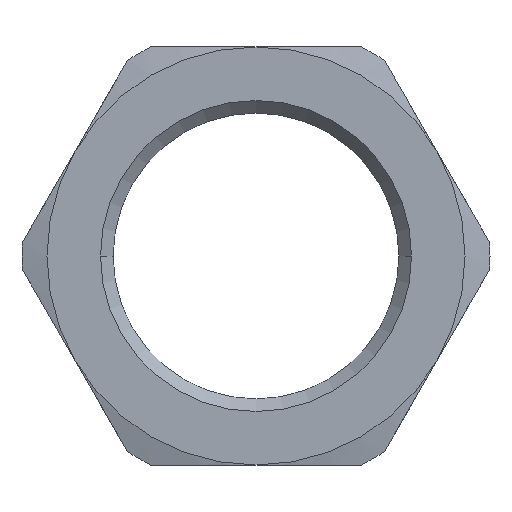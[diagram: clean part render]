
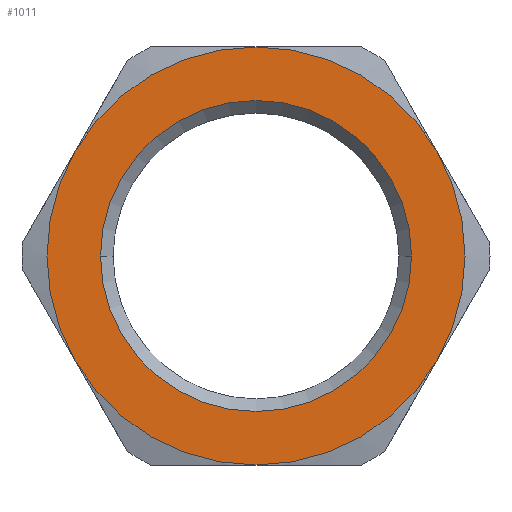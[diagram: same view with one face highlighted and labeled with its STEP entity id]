
A CAD part, left-side view. The second image highlights one B-rep face of the part: STEP entity #1011.
In plain terms, the highlighted planar face has unit normal (-1, 0, 0) as drawn and (0, 0, 1) by its records, which use the part's own axes.
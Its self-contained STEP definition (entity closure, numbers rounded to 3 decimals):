
#299=CARTESIAN_POINT('',(0.,15.25,4.));
#300=VERTEX_POINT('',#299);
#314=CARTESIAN_POINT('',(0.,-15.25,4.0));
#315=VERTEX_POINT('',#314);
#322=CARTESIAN_POINT('',(0.,0.,4.0));
#323=DIRECTION('',(0.0,0.0,-1.0));
#324=DIRECTION('',(0.0,1.0,0.0));
#325=AXIS2_PLACEMENT_3D('',#322,#323,#324);
#326=CIRCLE('',#325,15.25);
#327=EDGE_CURVE('',#300,#315,#326,.T.);
#338=CARTESIAN_POINT('',(0.,0.,4.0));
#339=DIRECTION('',(0.0,0.0,-1.0));
#340=DIRECTION('',(0.0,1.0,0.0));
#341=AXIS2_PLACEMENT_3D('',#338,#339,#340);
#342=CIRCLE('',#341,15.25);
#343=EDGE_CURVE('',#315,#300,#342,.T.);
#626=CARTESIAN_POINT('',(-20.5,0.,4.0));
#627=VERTEX_POINT('',#626);
#641=CARTESIAN_POINT('',(-10.25,17.754,4.0));
#642=VERTEX_POINT('',#641);
#643=CARTESIAN_POINT('',(0.,0.0,4.0));
#644=DIRECTION('',(0.0,0.0,1.0));
#645=DIRECTION('',(1.0,0.0,0.0));
#646=AXIS2_PLACEMENT_3D('',#643,#644,#645);
#647=CIRCLE('',#646,20.5);
#648=EDGE_CURVE('',#642,#627,#647,.T.);
#702=CARTESIAN_POINT('',(-10.25,-17.754,4.0));
#703=VERTEX_POINT('',#702);
#717=CARTESIAN_POINT('',(0.,0.0,4.0));
#718=DIRECTION('',(0.0,0.0,1.0));
#719=DIRECTION('',(1.0,0.0,0.0));
#720=AXIS2_PLACEMENT_3D('',#717,#718,#719);
#721=CIRCLE('',#720,20.5);
#722=EDGE_CURVE('',#627,#703,#721,.T.);
#764=CARTESIAN_POINT('',(10.25,-17.754,4.0));
#765=VERTEX_POINT('',#764);
#779=CARTESIAN_POINT('',(0.,0.0,4.0));
#780=DIRECTION('',(0.0,0.0,1.0));
#781=DIRECTION('',(1.0,0.0,0.0));
#782=AXIS2_PLACEMENT_3D('',#779,#780,#781);
#783=CIRCLE('',#782,20.5);
#784=EDGE_CURVE('',#703,#765,#783,.T.);
#827=CARTESIAN_POINT('',(20.5,0.0,4.0));
#828=VERTEX_POINT('',#827);
#842=CARTESIAN_POINT('',(0.,0.0,4.0));
#843=DIRECTION('',(0.0,0.0,1.0));
#844=DIRECTION('',(1.0,0.0,0.0));
#845=AXIS2_PLACEMENT_3D('',#842,#843,#844);
#846=CIRCLE('',#845,20.5);
#847=EDGE_CURVE('',#765,#828,#846,.T.);
#872=CARTESIAN_POINT('',(10.25,17.754,4.0));
#873=VERTEX_POINT('',#872);
#874=CARTESIAN_POINT('',(0.,0.0,4.0));
#875=DIRECTION('',(0.0,0.0,1.0));
#876=DIRECTION('',(1.0,0.0,0.0));
#877=AXIS2_PLACEMENT_3D('',#874,#875,#876);
#878=CIRCLE('',#877,20.5);
#879=EDGE_CURVE('',#873,#642,#878,.T.);
#917=CARTESIAN_POINT('',(0.,0.0,4.0));
#918=DIRECTION('',(0.0,0.0,1.0));
#919=DIRECTION('',(1.0,0.0,0.0));
#920=AXIS2_PLACEMENT_3D('',#917,#918,#919);
#921=CIRCLE('',#920,20.5);
#922=EDGE_CURVE('',#828,#873,#921,.T.);
#994=CARTESIAN_POINT('',(0.,0.,4.0));
#995=DIRECTION('',(0.0,0.0,1.0));
#996=DIRECTION('',(1.0,0.0,0.0));
#997=AXIS2_PLACEMENT_3D('',#994,#995,#996);
#998=PLANE('',#997);
#999=ORIENTED_EDGE('',*,*,#847,.T.);
#1000=ORIENTED_EDGE('',*,*,#922,.T.);
#1001=ORIENTED_EDGE('',*,*,#879,.T.);
#1002=ORIENTED_EDGE('',*,*,#648,.T.);
#1003=ORIENTED_EDGE('',*,*,#722,.T.);
#1004=ORIENTED_EDGE('',*,*,#784,.T.);
#1005=EDGE_LOOP('',(#999,#1000,#1001,#1002,#1003,#1004));
#1006=FACE_OUTER_BOUND('',#1005,.T.);
#1007=ORIENTED_EDGE('',*,*,#327,.T.);
#1008=ORIENTED_EDGE('',*,*,#343,.T.);
#1009=EDGE_LOOP('',(#1007,#1008));
#1010=FACE_BOUND('',#1009,.T.);
#1011=ADVANCED_FACE('',(#1006,#1010),#998,.T.);
